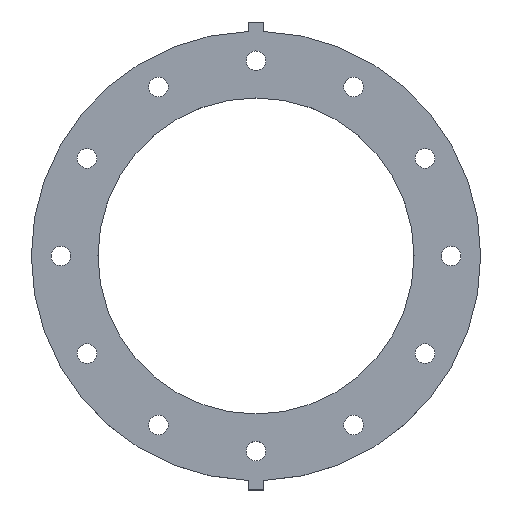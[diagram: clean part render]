
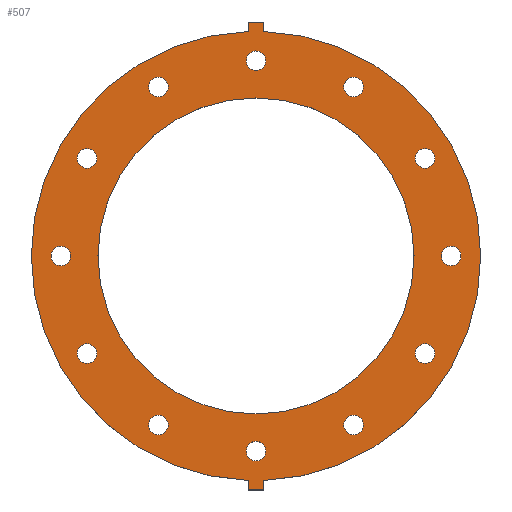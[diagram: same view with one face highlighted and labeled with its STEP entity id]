
A CAD part, top view. The second image highlights one B-rep face of the part: STEP entity #507.
In plain terms, the highlighted planar face has unit normal (0, 0, 1).
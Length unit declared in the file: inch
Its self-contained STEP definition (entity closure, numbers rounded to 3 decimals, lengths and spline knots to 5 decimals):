
#14=FACE_BOUND('',#93,.T.);
#15=FACE_BOUND('',#94,.T.);
#16=FACE_BOUND('',#95,.T.);
#17=FACE_BOUND('',#96,.T.);
#18=FACE_BOUND('',#97,.T.);
#19=FACE_BOUND('',#98,.T.);
#20=FACE_BOUND('',#99,.T.);
#21=FACE_BOUND('',#100,.T.);
#22=FACE_BOUND('',#101,.T.);
#23=FACE_BOUND('',#102,.T.);
#24=FACE_BOUND('',#103,.T.);
#25=FACE_BOUND('',#104,.T.);
#26=FACE_BOUND('',#105,.T.);
#46=PLANE('',#580);
#69=FACE_OUTER_BOUND('',#92,.T.);
#92=EDGE_LOOP('',(#405,#406,#407,#408,#409,#410,#411,#412));
#93=EDGE_LOOP('',(#413));
#94=EDGE_LOOP('',(#414));
#95=EDGE_LOOP('',(#415));
#96=EDGE_LOOP('',(#416));
#97=EDGE_LOOP('',(#417));
#98=EDGE_LOOP('',(#418));
#99=EDGE_LOOP('',(#419));
#100=EDGE_LOOP('',(#420));
#101=EDGE_LOOP('',(#421));
#102=EDGE_LOOP('',(#422));
#103=EDGE_LOOP('',(#423));
#104=EDGE_LOOP('',(#424));
#105=EDGE_LOOP('',(#425));
#139=LINE('',#825,#172);
#141=LINE('',#830,#174);
#144=LINE('',#834,#177);
#147=LINE('',#842,#180);
#150=LINE('',#846,#183);
#152=LINE('',#849,#185);
#172=VECTOR('',#695,0.3937);
#174=VECTOR('',#699,0.3937);
#177=VECTOR('',#704,0.3937);
#180=VECTOR('',#709,0.3937);
#183=VECTOR('',#714,0.3937);
#185=VECTOR('',#718,0.3937);
#186=CIRCLE('',#530,0.395);
#188=CIRCLE('',#533,0.395);
#190=CIRCLE('',#536,0.395);
#192=CIRCLE('',#539,0.395);
#194=CIRCLE('',#542,0.395);
#196=CIRCLE('',#545,0.395);
#198=CIRCLE('',#548,0.395);
#200=CIRCLE('',#551,0.395);
#202=CIRCLE('',#554,0.395);
#204=CIRCLE('',#557,0.395);
#206=CIRCLE('',#560,0.395);
#208=CIRCLE('',#563,0.395);
#211=CIRCLE('',#567,6.375);
#213=CIRCLE('',#570,9.065);
#214=CIRCLE('',#572,9.065);
#216=VERTEX_POINT('',#725);
#218=VERTEX_POINT('',#731);
#220=VERTEX_POINT('',#737);
#222=VERTEX_POINT('',#743);
#224=VERTEX_POINT('',#749);
#226=VERTEX_POINT('',#755);
#228=VERTEX_POINT('',#761);
#230=VERTEX_POINT('',#767);
#232=VERTEX_POINT('',#773);
#234=VERTEX_POINT('',#779);
#236=VERTEX_POINT('',#785);
#238=VERTEX_POINT('',#791);
#241=VERTEX_POINT('',#799);
#243=VERTEX_POINT('',#804);
#245=VERTEX_POINT('',#808);
#247=VERTEX_POINT('',#813);
#248=VERTEX_POINT('',#815);
#251=VERTEX_POINT('',#823);
#253=VERTEX_POINT('',#829);
#256=VERTEX_POINT('',#839);
#257=VERTEX_POINT('',#841);
#258=EDGE_CURVE('',#216,#216,#186,.T.);
#261=EDGE_CURVE('',#218,#218,#188,.T.);
#264=EDGE_CURVE('',#220,#220,#190,.T.);
#267=EDGE_CURVE('',#222,#222,#192,.T.);
#270=EDGE_CURVE('',#224,#224,#194,.T.);
#273=EDGE_CURVE('',#226,#226,#196,.T.);
#276=EDGE_CURVE('',#228,#228,#198,.T.);
#279=EDGE_CURVE('',#230,#230,#200,.T.);
#282=EDGE_CURVE('',#232,#232,#202,.T.);
#285=EDGE_CURVE('',#234,#234,#204,.T.);
#288=EDGE_CURVE('',#236,#236,#206,.T.);
#291=EDGE_CURVE('',#238,#238,#208,.T.);
#296=EDGE_CURVE('',#241,#241,#211,.T.);
#300=EDGE_CURVE('',#243,#245,#213,.T.);
#302=EDGE_CURVE('',#248,#247,#214,.T.);
#307=EDGE_CURVE('',#245,#251,#139,.T.);
#309=EDGE_CURVE('',#253,#248,#141,.T.);
#312=EDGE_CURVE('',#251,#253,#144,.T.);
#315=EDGE_CURVE('',#257,#256,#147,.T.);
#318=EDGE_CURVE('',#247,#257,#150,.T.);
#320=EDGE_CURVE('',#256,#243,#152,.T.);
#405=ORIENTED_EDGE('',*,*,#320,.T.);
#406=ORIENTED_EDGE('',*,*,#300,.T.);
#407=ORIENTED_EDGE('',*,*,#307,.T.);
#408=ORIENTED_EDGE('',*,*,#312,.T.);
#409=ORIENTED_EDGE('',*,*,#309,.T.);
#410=ORIENTED_EDGE('',*,*,#302,.T.);
#411=ORIENTED_EDGE('',*,*,#318,.T.);
#412=ORIENTED_EDGE('',*,*,#315,.T.);
#413=ORIENTED_EDGE('',*,*,#258,.T.);
#414=ORIENTED_EDGE('',*,*,#261,.T.);
#415=ORIENTED_EDGE('',*,*,#264,.T.);
#416=ORIENTED_EDGE('',*,*,#267,.T.);
#417=ORIENTED_EDGE('',*,*,#270,.T.);
#418=ORIENTED_EDGE('',*,*,#273,.T.);
#419=ORIENTED_EDGE('',*,*,#276,.T.);
#420=ORIENTED_EDGE('',*,*,#279,.T.);
#421=ORIENTED_EDGE('',*,*,#282,.T.);
#422=ORIENTED_EDGE('',*,*,#285,.T.);
#423=ORIENTED_EDGE('',*,*,#288,.T.);
#424=ORIENTED_EDGE('',*,*,#291,.T.);
#425=ORIENTED_EDGE('',*,*,#296,.T.);
#507=ADVANCED_FACE('',(#69,#14,#15,#16,#17,#18,#19,#20,#21,#22,#23,#24,
#25,#26),#46,.T.);
#530=AXIS2_PLACEMENT_3D('',#726,#586,#587);
#533=AXIS2_PLACEMENT_3D('',#732,#593,#594);
#536=AXIS2_PLACEMENT_3D('',#738,#600,#601);
#539=AXIS2_PLACEMENT_3D('',#744,#607,#608);
#542=AXIS2_PLACEMENT_3D('',#750,#614,#615);
#545=AXIS2_PLACEMENT_3D('',#756,#621,#622);
#548=AXIS2_PLACEMENT_3D('',#762,#628,#629);
#551=AXIS2_PLACEMENT_3D('',#768,#635,#636);
#554=AXIS2_PLACEMENT_3D('',#774,#642,#643);
#557=AXIS2_PLACEMENT_3D('',#780,#649,#650);
#560=AXIS2_PLACEMENT_3D('',#786,#656,#657);
#563=AXIS2_PLACEMENT_3D('',#792,#663,#664);
#567=AXIS2_PLACEMENT_3D('',#801,#673,#674);
#570=AXIS2_PLACEMENT_3D('',#810,#681,#682);
#572=AXIS2_PLACEMENT_3D('',#816,#686,#687);
#580=AXIS2_PLACEMENT_3D('',#850,#719,#720);
#586=DIRECTION('center_axis',(0.,0.,-1.));
#587=DIRECTION('ref_axis',(-0.5,-0.866,0.));
#593=DIRECTION('center_axis',(0.,0.,-1.));
#594=DIRECTION('ref_axis',(-0.866,-0.5,0.));
#600=DIRECTION('center_axis',(0.,0.,-1.));
#601=DIRECTION('ref_axis',(-1.,0.,0.));
#607=DIRECTION('center_axis',(0.,0.,-1.));
#608=DIRECTION('ref_axis',(-0.866,0.5,0.));
#614=DIRECTION('center_axis',(0.,0.,-1.));
#615=DIRECTION('ref_axis',(-0.5,0.866,0.));
#621=DIRECTION('center_axis',(0.,0.,-1.));
#622=DIRECTION('ref_axis',(0.,1.,0.));
#628=DIRECTION('center_axis',(0.,0.,-1.));
#629=DIRECTION('ref_axis',(0.5,0.866,0.));
#635=DIRECTION('center_axis',(0.,0.,-1.));
#636=DIRECTION('ref_axis',(0.866,0.5,0.));
#642=DIRECTION('center_axis',(0.,0.,-1.));
#643=DIRECTION('ref_axis',(1.,0.,0.));
#649=DIRECTION('center_axis',(0.,0.,-1.));
#650=DIRECTION('ref_axis',(0.866,-0.5,0.));
#656=DIRECTION('center_axis',(0.,0.,-1.));
#657=DIRECTION('ref_axis',(0.5,-0.866,0.));
#663=DIRECTION('center_axis',(0.,0.,-1.));
#664=DIRECTION('ref_axis',(0.,-1.,0.));
#673=DIRECTION('center_axis',(0.,0.,-1.));
#674=DIRECTION('ref_axis',(0.,-1.,0.));
#681=DIRECTION('center_axis',(0.,0.,1.));
#682=DIRECTION('ref_axis',(0.,1.,0.));
#686=DIRECTION('center_axis',(0.,0.,1.));
#687=DIRECTION('ref_axis',(0.,1.,0.));
#695=DIRECTION('',(0.,-1.,0.));
#699=DIRECTION('',(0.,1.,0.));
#704=DIRECTION('',(1.,0.,0.));
#709=DIRECTION('',(-1.,0.,0.));
#714=DIRECTION('',(0.,1.,0.));
#718=DIRECTION('',(0.,-1.,0.));
#719=DIRECTION('center_axis',(0.,0.,1.));
#720=DIRECTION('ref_axis',(0.,1.,0.));
#725=CARTESIAN_POINT('',(-6.62245,4.27958,1.25));
#726=CARTESIAN_POINT('Origin',(-6.81995,3.9375,1.25));
#731=CARTESIAN_POINT('',(-3.59542,7.01745,1.25));
#732=CARTESIAN_POINT('Origin',(-3.9375,6.81995,1.25));
#737=CARTESIAN_POINT('',(0.395,7.875,1.25));
#738=CARTESIAN_POINT('Origin',(0.,7.875,1.25));
#743=CARTESIAN_POINT('',(4.27958,6.62245,1.25));
#744=CARTESIAN_POINT('Origin',(3.9375,6.81995,1.25));
#749=CARTESIAN_POINT('',(7.01745,3.59542,1.25));
#750=CARTESIAN_POINT('Origin',(6.81995,3.9375,1.25));
#755=CARTESIAN_POINT('',(7.875,-0.395,1.25));
#756=CARTESIAN_POINT('Origin',(7.875,0.,1.25));
#761=CARTESIAN_POINT('',(6.62245,-4.27958,1.25));
#762=CARTESIAN_POINT('Origin',(6.81995,-3.9375,1.25));
#767=CARTESIAN_POINT('',(3.59542,-7.01745,1.25));
#768=CARTESIAN_POINT('Origin',(3.9375,-6.81995,1.25));
#773=CARTESIAN_POINT('',(-0.395,-7.875,1.25));
#774=CARTESIAN_POINT('Origin',(0.,-7.875,1.25));
#779=CARTESIAN_POINT('',(-4.27958,-6.62245,1.25));
#780=CARTESIAN_POINT('Origin',(-3.9375,-6.81995,1.25));
#785=CARTESIAN_POINT('',(-7.01745,-3.59542,1.25));
#786=CARTESIAN_POINT('Origin',(-6.81995,-3.9375,1.25));
#791=CARTESIAN_POINT('',(-7.875,0.395,1.25));
#792=CARTESIAN_POINT('Origin',(-7.875,0.,1.25));
#799=CARTESIAN_POINT('',(0.,6.375,1.25));
#801=CARTESIAN_POINT('Origin',(0.,0.,1.25));
#804=CARTESIAN_POINT('',(-0.32,9.05935,1.25));
#808=CARTESIAN_POINT('',(-0.32,-9.05935,1.25));
#810=CARTESIAN_POINT('Origin',(0.,0.,1.25));
#813=CARTESIAN_POINT('',(0.32,9.05935,1.25));
#815=CARTESIAN_POINT('',(0.32,-9.05935,1.25));
#816=CARTESIAN_POINT('Origin',(0.,0.,1.25));
#823=CARTESIAN_POINT('',(-0.32,-9.44,1.25));
#825=CARTESIAN_POINT('',(-0.32,-9.05935,1.25));
#829=CARTESIAN_POINT('',(0.32,-9.44,1.25));
#830=CARTESIAN_POINT('',(0.32,-9.44,1.25));
#834=CARTESIAN_POINT('',(-0.32,-9.44,1.25));
#839=CARTESIAN_POINT('',(-0.32,9.44,1.25));
#841=CARTESIAN_POINT('',(0.32,9.44,1.25));
#842=CARTESIAN_POINT('',(0.32,9.44,1.25));
#846=CARTESIAN_POINT('',(0.32,9.05935,1.25));
#849=CARTESIAN_POINT('',(-0.32,9.44,1.25));
#850=CARTESIAN_POINT('Origin',(0.,9.26681,1.25));
